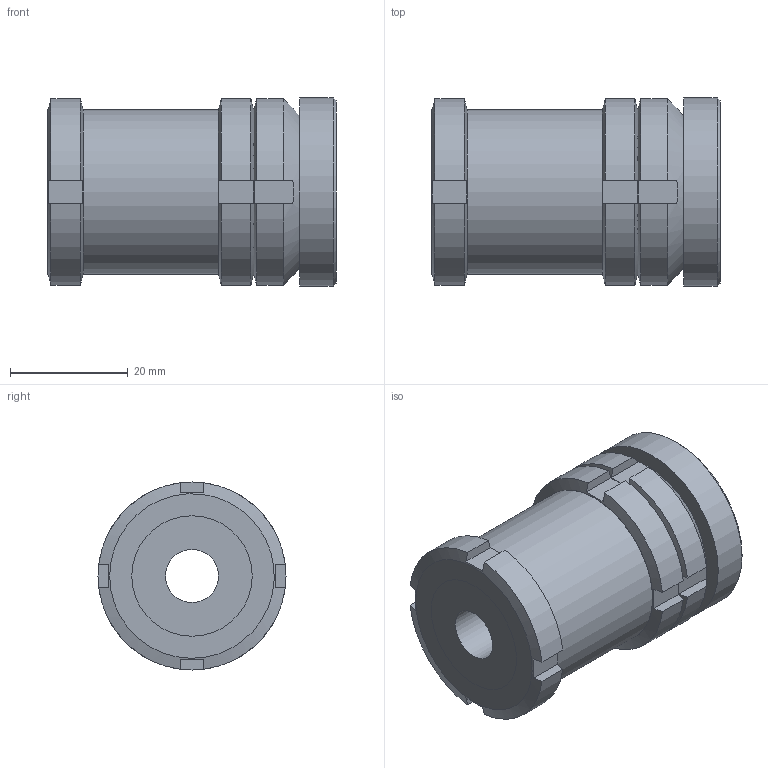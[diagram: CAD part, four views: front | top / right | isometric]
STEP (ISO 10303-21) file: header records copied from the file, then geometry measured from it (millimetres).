
FILE_DESCRIPTION( ( 'STEP AP203' ), '1' );
FILE_NAME( 'C:/Temp/Ganter_Step_05_03_2020/data/3_2/gn350_5/gn350_5_st/Levelling set GN 350.5-32-9-49-ST (0-0).stp', '2020-03-13T05:28:26', ( 'License CC BY-ND 4.0' ), ( 'CADENAS' ), ' ', 'PARTsolutions', ' ' );
FILE_SCHEMA( ( 'CONFIG_CONTROL_DESIGN' ) );
Length unit declared in the file: millimetre
Products named in the file (5): Levelling set GN 350.5-32-9-49-ST (0-0); _Levelling set GN 350.5-32-9-49-ST-G; _Levelling set GN 350.5-32-9-49-ST-K; _Levelling set GN 350.5-32-9-49-ST-P(0); _Levelling set GN 350.5-32-9-32-ST-KM
Assembly tree (4 placements, depth 2):
  Levelling set GN 350.5-32-9-49-ST (0-0)
    _Levelling set GN 350.5-32-9-49-ST-G
    _Levelling set GN 350.5-32-9-49-ST-K
    _Levelling set GN 350.5-32-9-49-ST-P(0)
    _Levelling set GN 350.5-32-9-32-ST-KM
Bounding box: 49 x 32 x 32 mm (x, y, z)
Volume: 30906.9 mm3; surface area: 15372.7 mm2
Topology: 4 solids, 4 shells, 84 faces, 209 edges, 139 vertices
Faces by surface type: plane 50, cylinder 24, cone 8, sphere 2
Full cylindrical faces by diameter (mm): 9 x1, 15 x1, 16.473 x1, 17.5 x1, 18.917 x2, 20 x2, 20.5 x2, 28 x1, 32 x1
Entity records: 2676 total; most frequent: CARTESIAN_POINT 695, DIRECTION 364, ORIENTED_EDGE 354, EDGE_CURVE 177, AXIS2_PLACEMENT_3D 158, VERTEX_POINT 129, EDGE_LOOP 120, FACE_OUTER_BOUND 98
